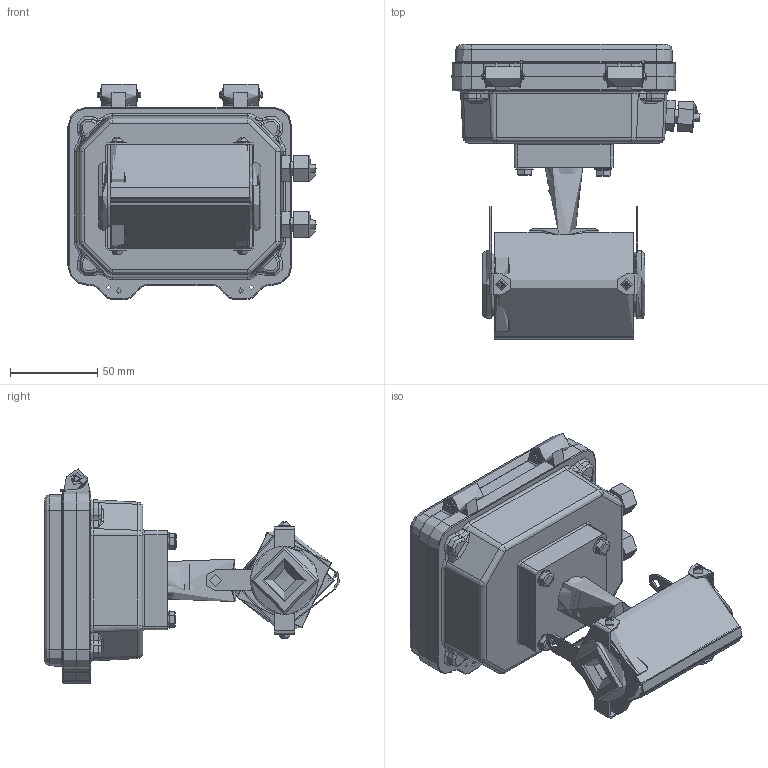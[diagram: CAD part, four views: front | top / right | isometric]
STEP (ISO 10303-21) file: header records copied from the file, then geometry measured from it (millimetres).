
FILE_DESCRIPTION(('STEP AP214'), '1');
FILE_NAME('Âçëåò ÝÌ ÏÐÎÔÈ DN15 Ñýíäâè÷', '', ('UNSPECIFIED'), ('UNSPECIFIED'), 'ASCON STEP Converter 1.6', 'ASCON Math Kernel', '');
FILE_SCHEMA(('AUTOMOTIVE_DESIGN { 1 0 10303 214 3 1 1}'));
Length unit declared in the file: millimetre
Products named in the file (1): 婽挭.407212.031-001.03
Bounding box: 142.42 x 169.38 x 123.45 mm (x, y, z)
Topology: 9 solids, 20 shells, 1320 faces, 3198 edges, 1951 vertices
Faces by surface type: plane 562, cylinder 394, cone 179, torus 135, bspline 46, sphere 4
Full cylindrical faces by diameter (mm): 1.567 x2, 2 x4, 3 x4, 3.242 x14, 3.3 x2, 3.6 x4, 4 x18, 5 x5, 5.5 x1, 6 x4, 7 x11, 7.5 x2, 8 x2, 10 x4, 12 x8, 12.5 x2, 14 x1, 16.5 x2, 18 x1, 19 x1, 19.5 x2, 20 x1, 21 x4, 23 x2, 25 x1, 26 x4, 27 x1, 30 x1, 37 x2, 39 x2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
Entity records: 67684 total; most frequent: CARTESIAN_POINT 21832, DIRECTION 6523, ORIENTED_EDGE 5782, EDGE_CURVE 2891, AXIS2_PLACEMENT_3D 2572, VERTEX_POINT 1921, EDGE_LOOP 1716, LINE 1379
